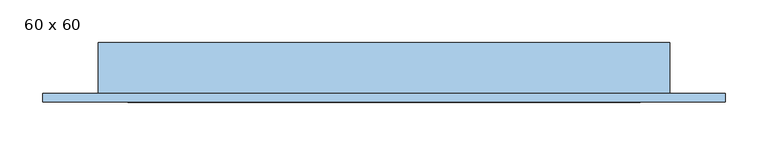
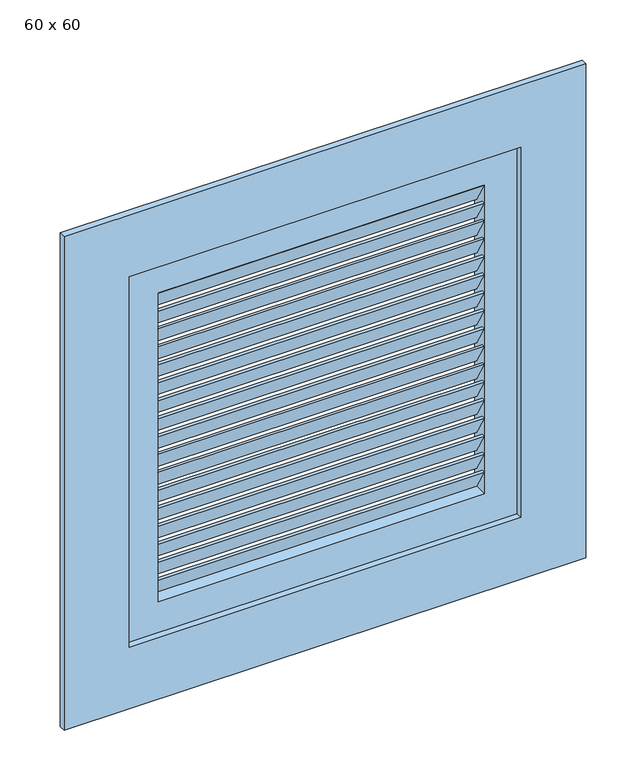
"""IFC4 building model written with IfcOpenShell, lengths in millimetres: window geometry, VENEZIANA FIXA - 1 FOLHA : 60 x 60."""

from ifc_helpers import new_model, si_unit, frame, origin, place, context, project, spatial, polyline, outline, extrude, source, transform, mapped, element, save


def window_60_x_60_8af40003(model_context):
    return source(origin(), model_context, "Body", "SweptSolid", [
        extrude(outline(polyline([(-55.8758395, 2085.9375), (-75.8758395, 2120.9375), (-70.8758395, 2120.9375), (-50.8758395, 2085.9375), (-55.8758395, 2085.9375)])), frame((-120.5964491, 0.0, 0.0), z_axis=(1.0, 0.0, 0.0), x_axis=(0.0, 1.0, 0.0)), (0.0, 0.0, 1.0), 500.0),
        extrude(outline(polyline([(-55.8758395, 2056.875), (-75.8758395, 2091.875), (-70.8758395, 2091.875), (-50.8758395, 2056.875), (-55.8758395, 2056.875)])), frame((-120.5964491, 0.0, 0.0), z_axis=(1.0, 0.0, 0.0), x_axis=(0.0, 1.0, 0.0)), (0.0, 0.0, 1.0), 500.0),
        extrude(outline(polyline([(-55.8758395, 2027.8125), (-75.8758395, 2062.8125), (-70.8758395, 2062.8125), (-50.8758395, 2027.8125), (-55.8758395, 2027.8125)])), frame((-120.5964491, 0.0, 0.0), z_axis=(1.0, 0.0, 0.0), x_axis=(0.0, 1.0, 0.0)), (0.0, 0.0, 1.0), 500.0),
        extrude(outline(polyline([(-55.8758395, 1998.75), (-75.8758395, 2033.75), (-70.8758395, 2033.75), (-50.8758395, 1998.75), (-55.8758395, 1998.75)])), frame((-120.5964491, 0.0, 0.0), z_axis=(1.0, 0.0, 0.0), x_axis=(0.0, 1.0, 0.0)), (0.0, 0.0, 1.0), 500.0),
        extrude(outline(polyline([(-55.8758395, 1969.6875), (-75.8758395, 2004.6875), (-70.8758395, 2004.6875), (-50.8758395, 1969.6875), (-55.8758395, 1969.6875)])), frame((-120.5964491, 0.0, 0.0), z_axis=(1.0, 0.0, 0.0), x_axis=(0.0, 1.0, 0.0)), (0.0, 0.0, 1.0), 500.0),
        extrude(outline(polyline([(-55.8758395, 1940.625), (-75.8758395, 1975.625), (-70.8758395, 1975.625), (-50.8758395, 1940.625), (-55.8758395, 1940.625)])), frame((-120.5964491, 0.0, 0.0), z_axis=(1.0, 0.0, 0.0), x_axis=(0.0, 1.0, 0.0)), (0.0, 0.0, 1.0), 500.0),
        extrude(outline(polyline([(-55.8758395, 1911.5625), (-75.8758395, 1946.5625), (-70.8758395, 1946.5625), (-50.8758395, 1911.5625), (-55.8758395, 1911.5625)])), frame((-120.5964491, 0.0, 0.0), z_axis=(1.0, 0.0, 0.0), x_axis=(0.0, 1.0, 0.0)), (0.0, 0.0, 1.0), 500.0),
        extrude(outline(polyline([(-55.8758395, 1882.5), (-75.8758395, 1917.5), (-70.8758395, 1917.5), (-50.8758395, 1882.5), (-55.8758395, 1882.5)])), frame((-120.5964491, 0.0, 0.0), z_axis=(1.0, 0.0, 0.0), x_axis=(0.0, 1.0, 0.0)), (0.0, 0.0, 1.0), 500.0),
        extrude(outline(polyline([(-55.8758395, 1853.4375), (-75.8758395, 1888.4375), (-70.8758395, 1888.4375), (-50.8758395, 1853.4375), (-55.8758395, 1853.4375)])), frame((-120.5964491, 0.0, 0.0), z_axis=(1.0, 0.0, 0.0), x_axis=(0.0, 1.0, 0.0)), (0.0, 0.0, 1.0), 500.0),
        extrude(outline(polyline([(-55.8758395, 1824.375), (-75.8758395, 1859.375), (-70.8758395, 1859.375), (-50.8758395, 1824.375), (-55.8758395, 1824.375)])), frame((-120.5964491, 0.0, 0.0), z_axis=(1.0, 0.0, 0.0), x_axis=(0.0, 1.0, 0.0)), (0.0, 0.0, 1.0), 500.0),
        extrude(outline(polyline([(-55.8758395, 1795.3125), (-75.8758395, 1830.3125), (-70.8758395, 1830.3125), (-50.8758395, 1795.3125), (-55.8758395, 1795.3125)])), frame((-120.5964491, 0.0, 0.0), z_axis=(1.0, 0.0, 0.0), x_axis=(0.0, 1.0, 0.0)), (0.0, 0.0, 1.0), 500.0),
        extrude(outline(polyline([(-55.8758395, 1766.25), (-75.8758395, 1801.25), (-70.8758395, 1801.25), (-50.8758395, 1766.25), (-55.8758395, 1766.25)])), frame((-120.5964491, 0.0, 0.0), z_axis=(1.0, 0.0, 0.0), x_axis=(0.0, 1.0, 0.0)), (0.0, 0.0, 1.0), 500.0),
        extrude(outline(polyline([(-55.8758395, 1737.1875), (-75.8758395, 1772.1875), (-70.8758395, 1772.1875), (-50.8758395, 1737.1875), (-55.8758395, 1737.1875)])), frame((-120.5964491, 0.0, 0.0), z_axis=(1.0, 0.0, 0.0), x_axis=(0.0, 1.0, 0.0)), (0.0, 0.0, 1.0), 500.0),
        extrude(outline(polyline([(-55.8758395, 1708.125), (-75.8758395, 1743.125), (-70.8758395, 1743.125), (-50.8758395, 1708.125), (-55.8758395, 1708.125)])), frame((-120.5964491, 0.0, 0.0), z_axis=(1.0, 0.0, 0.0), x_axis=(0.0, 1.0, 0.0)), (0.0, 0.0, 1.0), 500.0),
        extrude(outline(polyline([(-55.8758395, 1679.0625), (-75.8758395, 1714.0625), (-70.8758395, 1714.0625), (-50.8758395, 1679.0625), (-55.8758395, 1679.0625)])), frame((-120.5964491, 0.0, 0.0), z_axis=(1.0, 0.0, 0.0), x_axis=(0.0, 1.0, 0.0)), (0.0, 0.0, 1.0), 500.0),
        extrude(outline(polyline([(-55.8758395, 2115.0), (-75.8758395, 2150.0), (-70.8758395, 2150.0), (-50.8758395, 2115.0), (-55.8758395, 2115.0)])), frame((-120.5964491, 0.0, 0.0), z_axis=(1.0, 0.0, 0.0), x_axis=(0.0, 1.0, 0.0)), (0.0, 0.0, 1.0), 500.0),
        extrude(outline(polyline([(-55.8758395, 1650.0), (-75.8758395, 1685.0), (-70.8758395, 1685.0), (-50.8758395, 1650.0), (-55.8758395, 1650.0)])), frame((-120.5964491, 0.0, 0.0), z_axis=(1.0, 0.0, 0.0), x_axis=(0.0, 1.0, 0.0)), (0.0, 0.0, 1.0), 500.0),
        extrude(outline(polyline([(2200.0, -170.5964491), (1600.0, -170.5964491), (1600.0, 429.4035509), (2200.0, 429.4035509), (2200.0, -170.5964491)]), holes=[polyline([(2150.0, -120.5964491), (2150.0, 379.4035509), (1650.0, 379.4035509), (1650.0, -120.5964491), (2150.0, -120.5964491)])]), frame((0.0, -75.8758395, 0.0), z_axis=(0.0, 1.0, 0.0), x_axis=(0.0, 0.0, 1.0)), (0.0, 0.0, 1.0), 25.0),
        extrude(outline(polyline([(1500.0, -270.5964491), (1500.0, 529.4035509), (2300.0, 529.4035509), (2300.0, -270.5964491), (1500.0, -270.5964491)]), holes=[polyline([(2200.0, -170.5964491), (2200.0, 429.4035509), (1600.0, 429.4035509), (1600.0, -170.5964491), (2200.0, -170.5964491)])]), frame((0.0, -85.8758395, 0.0), z_axis=(0.0, 1.0, 0.0), x_axis=(0.0, 0.0, 1.0)), (0.0, 0.0, 1.0), 10.0),
        extrude(outline(polyline([(-205.5964491, -15.8758395), (-170.5964491, -15.8758395), (-170.5964491, -75.8758395), (-205.5964491, -75.8758395), (-205.5964491, -15.8758395)])), frame((0.0, 0.0, 1600.0), z_axis=(0.0, 0.0, 1.0), x_axis=(1.0, 0.0, 0.0)), (0.0, 0.0, 1.0), 600.0),
        extrude(outline(polyline([(429.4035509, -15.8758395), (464.4035509, -15.8758395), (464.4035509, -75.8758395), (429.4035509, -75.8758395), (429.4035509, -15.8758395)])), frame((0.0, 0.0, 1600.0), z_axis=(0.0, 0.0, 1.0), x_axis=(1.0, 0.0, 0.0)), (0.0, 0.0, 1.0), 600.0),
        extrude(outline(polyline([(-205.5964491, -15.8758395), (464.4035509, -15.8758395), (464.4035509, -75.8758395), (-205.5964491, -75.8758395), (-205.5964491, -15.8758395)])), frame((0.0, 0.0, 1565.0), z_axis=(0.0, 0.0, 1.0), x_axis=(1.0, 0.0, 0.0)), (0.0, 0.0, 1.0), 35.0),
        extrude(outline(polyline([(-205.5964491, -15.8758395), (464.4035509, -15.8758395), (464.4035509, -75.8758395), (-205.5964491, -75.8758395), (-205.5964491, -15.8758395)])), frame((0.0, 0.0, 2200.0), z_axis=(0.0, 0.0, 1.0), x_axis=(1.0, 0.0, 0.0)), (0.0, 0.0, 1.0), 35.0),
    ])


if __name__ == "__main__":
    model = new_model("IFC4")
    model_context = context("Model", 3, world=origin())
    ifc_project = project(units=[si_unit("LENGTHUNIT", "METRE", prefix="MILLI")], contexts=[model_context])
    site = spatial("IfcSite", under=ifc_project)
    building = spatial("IfcBuilding", under=site)
    placement = place(None, origin())
    window_60_x_60_shape = window_60_x_60_8af40003(model_context)
    element("IfcWindow", 1, ObjectType="VENEZIANA FIXA - 1 FOLHA : 60 x 60", at=placement, inside=building, context=model_context, shape_type="MappedRepresentation", body=[
        mapped(window_60_x_60_shape, transform((0.0, 0.0, 0.0), x_axis=(1.0, 0.0, 0.0), y_axis=(0.0, 1.0, 0.0), z_axis=(0.0, 0.0, 1.0))),
    ])
    save(model, "model.ifc")
